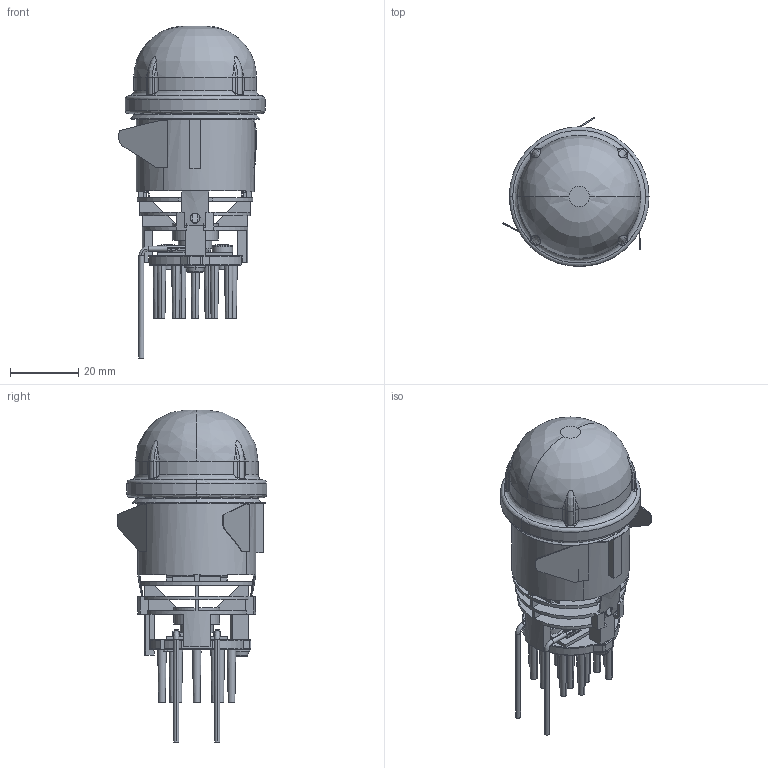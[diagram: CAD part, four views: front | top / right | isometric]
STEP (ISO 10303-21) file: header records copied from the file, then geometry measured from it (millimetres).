
FILE_DESCRIPTION(('CAx-IF Rec.Pracs.---Model Styling and Organization---1.2---2011-12-15','CAx-IF Rec.Pracs.---Geometric and Assembly Validation Properties---4.1---2014-06-16','CAx-IF Rec.Pracs.---PMI Polyline Presentation---2.0---2013-05-24'),'2;1');
FILE_NAME('01YYD19Y0E.stp','2021-05-07T07:30:17+02:00',(''),(''),'STEP Interface 4.4 by CT CoreTechnologie','3D_Evolution4.4 by CT CoreTechnologie','');
FILE_SCHEMA(('AP203_CONFIGURATION_CONTROLLED_3D_DESIGN_OF_MECHANICAL_PARTS_AND_ASSEMBLIES_MIM_LF'));
Length unit declared in the file: millimetre
Products named in the file (14): 01YYD19Y0E; 002-15J-02; 01Y-D2E-02; 01Y-D2D-02; 020-Z05-03; 01V-N7W-03; 01W-Q2S-09; 01V-N7W-02; 01Y-D1G-01; 01Y-D1A-0D; 01Y-D15-06; 01Y-D0D-07-oa0; 01Y-D0D-07; 01Y-D0R-01
Assembly tree (15 placements, depth 3):
  01YYD19Y0E
    002-15J-02
    01Y-D2E-02
    01Y-D2D-02
    020-Z05-03
    01V-N7W-03
      01W-Q2S-09  x2
      01V-N7W-02
    01Y-D1G-01
    01Y-D1A-0D
    01Y-D15-06
    01Y-D0D-07-oa0
    01Y-D0D-07
    01Y-D0R-01  x2
Bounding box: 42.85 x 43.78 x 97.39 mm (x, y, z)
Volume: 24139 mm3; surface area: 26512.6 mm2
Topology: 14 solids, 16 shells, 1113 faces, 2960 edges, 1892 vertices
Faces by surface type: plane 602, cylinder 275, bspline 236
Entity records: 95953 total; most frequent: CARTESIAN_POINT 12353, PROPERTY_DEFINITION 9151, ORIENTED_EDGE 4990, DIRECTION 4718, REPRESENTATION 4584, GENERAL_PROPERTY 4584, PROPERTY_DEFINITION_REPRESENTATION 4584, GENERAL_PROPERTY_ASSOCIATION 4584
